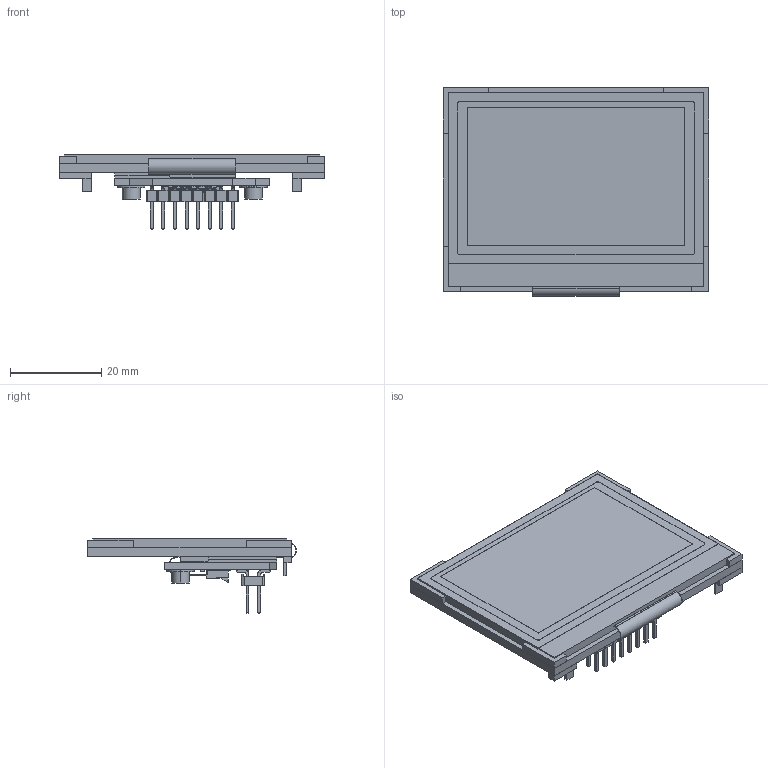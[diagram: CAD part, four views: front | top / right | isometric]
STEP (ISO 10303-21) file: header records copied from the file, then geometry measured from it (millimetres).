
FILE_DESCRIPTION (( 'STEP AP214' ), '1' );
FILE_NAME ('CFAG12864U3TFH-E1-1.STEP', '2021-03-02T19:01:19', ( '' ), ( '' ), 'SwSTEP 2.0', 'SolidWorks 2020', '' );
FILE_SCHEMA (( 'AUTOMOTIVE_DESIGN' ));
Length unit declared in the file: millimetre
Products named in the file (7): Backlight frame; CFAG12864U3TFH-E1-1; CFAG12864U3NFH; cfa_10110; CFPN_01712; CFAG12864U3TFH; VHB_Tape_10099_Short
Assembly tree (8 placements, depth 3):
  CFAG12864U3TFH-E1-1
    CFAG12864U3TFH
      Backlight frame
      CFAG12864U3NFH
    VHB_Tape_10099_Short  x2
    cfa_10110
    CFPN_01712  x2
Bounding box: 58.2 x 45.77 x 16.32 mm (x, y, z)
Volume: 12133.4 mm3; surface area: 21116.9 mm2
Topology: 46 solids, 46 shells, 2112 faces, 5747 edges, 3803 vertices
Faces by surface type: plane 1538, cylinder 550, bspline 20, cone 4
Entity records: 86855 total; most frequent: CARTESIAN_POINT 15107, ORIENTED_EDGE 11410, DIRECTION 10323, EDGE_CURVE 5705, VECTOR 4035, LINE 4035, VERTEX_POINT 3778, AXIS2_PLACEMENT_3D 3144
